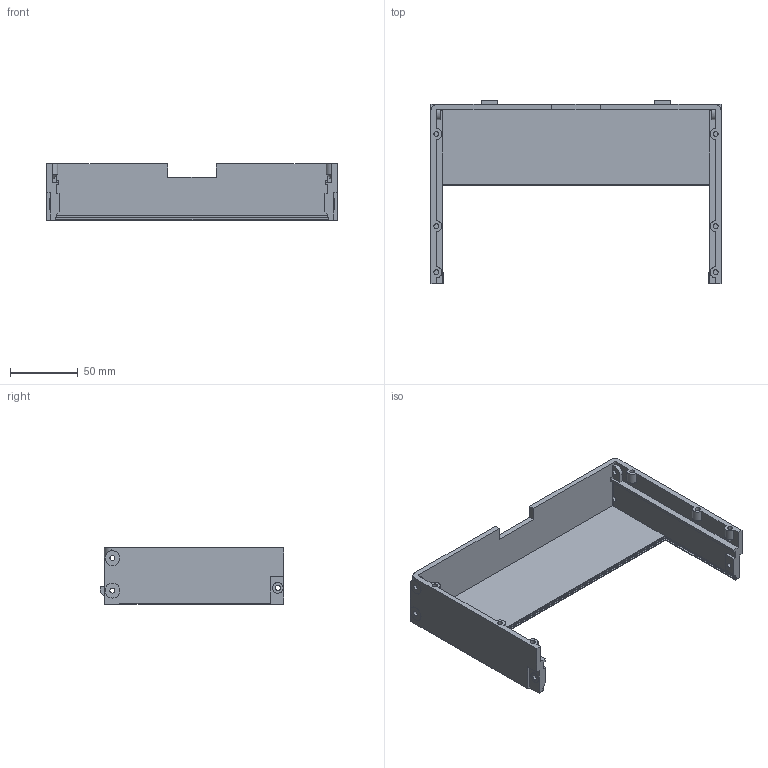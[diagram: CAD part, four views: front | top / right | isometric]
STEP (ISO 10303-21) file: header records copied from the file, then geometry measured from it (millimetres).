
FILE_DESCRIPTION(('Open CASCADE Model'),'2;1');
FILE_NAME('Open CASCADE Shape Model','2026-11-10T17:01:23',('Author'),( 'Open CASCADE'),'Open CASCADE STEP processor 7.9','Open CASCADE 7.9' ,'Unknown');
FILE_SCHEMA(('AUTOMOTIVE_DESIGN { 1 0 10303 214 1 1 1 1 }'));
Length unit declared in the file: millimetre
Products named in the file (2): T05_Upper_sensor_base; 01_Upper_sensor_base
Assembly tree (1 placements, depth 2):
  T05_Upper_sensor_base
    01_Upper_sensor_base
Bounding box: 214.6 x 135.35 x 41.5 mm (x, y, z)
Volume: 132194.1 mm3; surface area: 69408.6 mm2
Topology: 1 solids, 1 shells, 155 faces, 429 edges, 286 vertices
Faces by surface type: plane 119, cylinder 30, cone 6
Full cylindrical faces by diameter (mm): 3.7 x12, 8 x2, 11 x4
Entity records: 11091 total; most frequent: CARTESIAN_POINT 2342, DIRECTION 1647, LINE 1123, VECTOR 1123, ORIENTED_EDGE 858, PCURVE 858, DEFINITIONAL_REPRESENTATION 858, EDGE_CURVE 429
